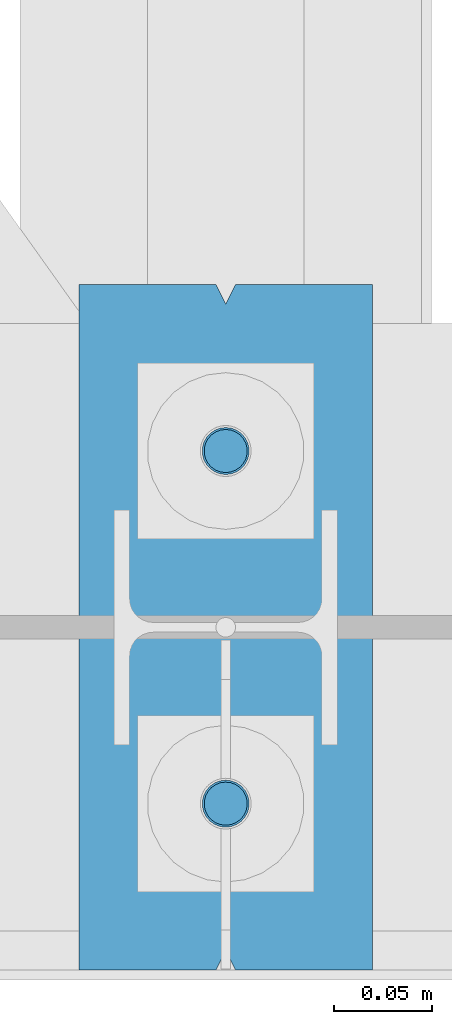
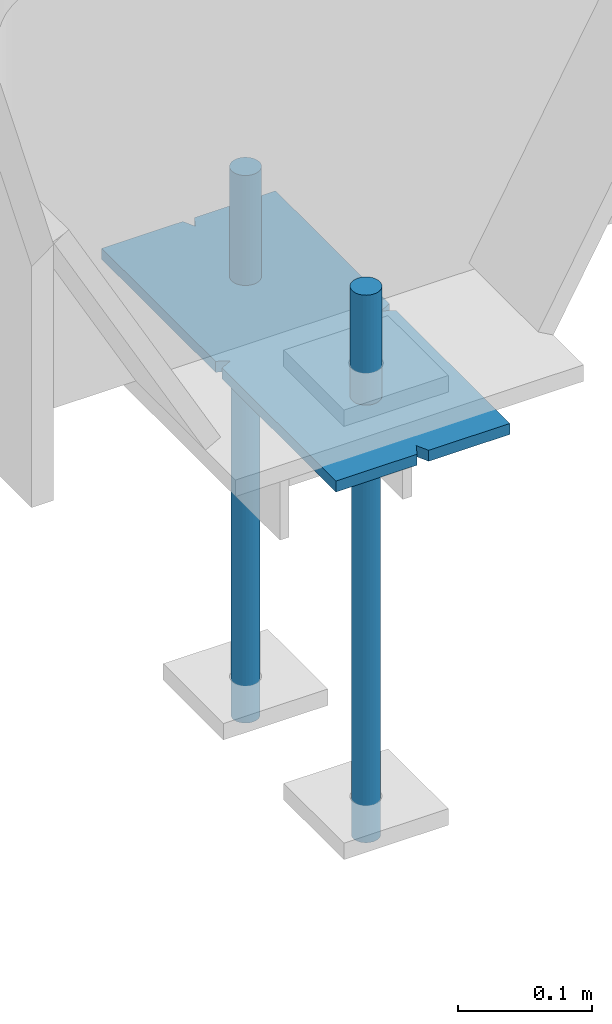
# One storey, part 81 of 123: 5 discrete accessories, 1 element without a shape of its own.
"""IFC2X3 building model written with IfcOpenShell, lengths in millimetres."""

import ifcopenshell
import ifcopenshell.guid

model = None  # the IFC model being written
_history = None  # IfcOwnerHistory: only IFC2X3 demands one
_inside = {}  # id of a spatial element -> (the spatial element, [elements in it])
_under = {}  # id of a project, library or spatial element -> (it, [spatial elements below it])
_declared = {}  # id of a project -> (the project, [libraries it declares])
_typed = {}  # id of a type object -> (the type object, [elements of that type])
_made_of = {}  # id of a material, layer set ... -> (it, [elements and type objects made of it])


def new_model(schema):
    """Start an empty IFC model of exactly this schema.

    Asked for "IFC4X3", IfcOpenShell would pick the latest addendum, in which some entities
    have other attributes; the version numbers below select the first issue.
    IFC2X3 requires an IfcOwnerHistory on every rooted entity: one is made here for all.
    """
    global model, _history
    if schema == "IFC4X3":
        model = ifcopenshell.file(schema_version=(4, 3, 0, 0))
    else:
        model = ifcopenshell.file(schema=schema)
    _inside.clear()
    _under.clear()
    _declared.clear()
    _typed.clear()
    _made_of.clear()
    _history = None
    if model.schema == "IFC2X3":
        org = make("IfcOrganization", Name="unknown")
        user = make(
            "IfcPersonAndOrganization",
            ThePerson=make("IfcPerson", FamilyName="unknown"),
            TheOrganization=org,
        )
        app = make(
            "IfcApplication",
            ApplicationDeveloper=org,
            Version="unknown",
            ApplicationFullName="unknown",
            ApplicationIdentifier="unknown",
        )
        _history = make(
            "IfcOwnerHistory",
            OwningUser=user,
            OwningApplication=app,
            ChangeAction="ADDED",
            CreationDate=0,
        )
    return model


def make(cls, **values):
    """One entity of the class cls with the attributes given. An attribute that is None is left unset."""
    return model.create_entity(
        cls, **{name: value for name, value in values.items() if value is not None}
    )


def rooted(cls, **values):
    """An entity with a GlobalId (a new one), such as an element, a storey or a relation."""
    return make(cls, GlobalId=ifcopenshell.guid.new(), OwnerHistory=_history, **values)


def si_unit(unit_type, name, prefix=None):
    """IfcSIUnit, for example si_unit("LENGTHUNIT", "METRE", prefix="MILLI")."""
    return make("IfcSIUnit", UnitType=unit_type, Prefix=prefix, Name=name)


def assignment(units):
    """IfcUnitAssignment: the units of a project."""
    return None if units is None else make("IfcUnitAssignment", Units=units)


def point(xyz):
    """IfcCartesianPoint."""
    return None if xyz is None else make("IfcCartesianPoint", Coordinates=xyz)


def direction(xyz):
    """IfcDirection."""
    return None if xyz is None else make("IfcDirection", DirectionRatios=xyz)


def frame(location, z_axis=None, x_axis=None):
    """IfcAxis2Placement3D, a coordinate frame: its origin and axes. An axis left out is left unset."""
    return make(
        "IfcAxis2Placement3D",
        Location=point(location),
        Axis=direction(z_axis),
        RefDirection=direction(x_axis),
    )


def frame_2d(location, x_axis=None):
    """IfcAxis2Placement2D, a coordinate frame in the plane: its origin and x axis."""
    return make(
        "IfcAxis2Placement2D", Location=point(location), RefDirection=direction(x_axis)
    )


def origin_with_axes():
    """The frame at (0, 0, 0) with the z axis (0, 0, 1) and the x axis (1, 0, 0) written out."""
    return frame((0.0, 0.0, 0.0), z_axis=(0.0, 0.0, 1.0), x_axis=(1.0, 0.0, 0.0))


def origin_2d_with_axis():
    """The frame at (0, 0) in the plane with the x axis (1, 0) written out."""
    return frame_2d((0.0, 0.0), x_axis=(1.0, 0.0))


def place(relative_to, where):
    """IfcLocalPlacement: puts the frame where relative to a parent placement (None: the world)."""
    return make(
        "IfcLocalPlacement", PlacementRelTo=relative_to, RelativePlacement=where
    )


def context(
    kind, dimensions, precision=None, world=None, true_north=None, identifier=None
):
    """IfcGeometricRepresentationContext, for example the 3D "Model" context."""
    return make(
        "IfcGeometricRepresentationContext",
        ContextIdentifier=identifier,
        ContextType=kind,
        CoordinateSpaceDimension=dimensions,
        Precision=precision,
        WorldCoordinateSystem=world,
        TrueNorth=true_north,
    )


def subcontext(parent, identifier, kind, view, scale=None):
    """IfcGeometricRepresentationSubContext, for example "Body" below "Model"."""
    return make(
        "IfcGeometricRepresentationSubContext",
        ContextIdentifier=identifier,
        ContextType=kind,
        ParentContext=parent,
        TargetScale=scale,
        TargetView=view,
    )


def project(units=None, contexts=None):
    """IfcProject with its units and contexts."""
    return rooted(
        "IfcProject",
        Name="project",
        RepresentationContexts=contexts,
        UnitsInContext=assignment(units),
    )


def spatial(cls, under=None, at=None, **own):
    """A site, building, storey or space (cls), placed at a placement, below another one or the project."""
    s = rooted(cls, ObjectPlacement=at, **own)
    if under is not None:
        _under.setdefault(under.id(), (under, []))[1].append(s)
    return s


def polyline(points):
    """IfcPolyline through the points."""
    return make("IfcPolyline", Points=[point(p) for p in points])


def profile(cls, at=None, kind="AREA", **sizes):
    """A parametric profile (cls). Its sizes go by their IFC names, for example OverallWidth=200.0."""
    return make(cls, ProfileType=kind, Position=at, **sizes)


def circle(**sizes):
    """IfcCircleProfileDef."""
    return profile("IfcCircleProfileDef", **sizes)


def outline(outer, holes=None, kind="AREA"):
    """IfcArbitraryClosedProfileDef: a profile drawn as a closed curve; with holes, ...WithVoids."""
    if holes is None:
        return make("IfcArbitraryClosedProfileDef", ProfileType=kind, OuterCurve=outer)
    return make(
        "IfcArbitraryProfileDefWithVoids",
        ProfileType=kind,
        OuterCurve=outer,
        InnerCurves=holes,
    )


def extrude(swept, where, along, depth):
    """IfcExtrudedAreaSolid: the profile swept, set in the frame where, extruded along a direction by depth."""
    return make(
        "IfcExtrudedAreaSolid",
        SweptArea=swept,
        Position=where,
        ExtrudedDirection=direction(along),
        Depth=depth,
    )


def boolean(op, a, b):
    """IfcBooleanResult of two solids."""
    return make("IfcBooleanResult", Operator=op, FirstOperand=a, SecondOperand=b)


def shape(context_of_items, identifier, shape_type, items):
    """IfcShapeRepresentation: the items that make up one representation, for example the "Body"."""
    return make(
        "IfcShapeRepresentation",
        ContextOfItems=context_of_items,
        RepresentationIdentifier=identifier,
        RepresentationType=shape_type,
        Items=items,
    )


def material(Name=None, Category=None):
    """IfcMaterial."""
    return make("IfcMaterial", Name=Name, Category=Category)


def made_of(thing, what):
    """Note that an element or type object is made of a material, layer set ...; save() writes the relation."""
    if what is not None:
        _made_of.setdefault(what.id(), (what, []))[1].append(thing)
    return thing


def type_object(cls, material=None, **own):
    """A type object (cls), such as IfcWallType, which elements share."""
    return made_of(rooted(cls, **own), material)


def element(
    cls,
    number,
    at=None,
    inside=None,
    cuts=None,
    type_object=None,
    material=None,
    context=None,
    identifier="Body",
    shape_type=None,
    held_by="IfcProductDefinitionShape",
    body=None,
    shapes=None,
    **own,
):
    """One element of the class cls, such as IfcWall. Its Tag is "e" and its number.

    at: its placement. inside: the storey or other place that contains it. cuts: it is an
    opening in that element (IfcRelVoidsElement). A single representation is given by context,
    identifier, shape_type and body (its items); several are given by shapes. held_by: the class
    of the entity that holds the representations. save() writes the other relations.
    """
    e = rooted(cls, Tag="e%d" % number, ObjectPlacement=at, **own)
    if body is not None:
        shapes = [shape(context, identifier, shape_type, body)]
    if shapes is not None:
        e.Representation = make(held_by, Representations=shapes)
    if inside is not None:
        _inside.setdefault(inside.id(), (inside, []))[1].append(e)
    if cuts is not None:
        rooted(
            "IfcRelVoidsElement", RelatingBuildingElement=cuts, RelatedOpeningElement=e
        )
    if type_object is not None:
        _typed.setdefault(type_object.id(), (type_object, []))[1].append(e)
    return made_of(e, material)


def aggregate(whole, parts):
    """IfcRelAggregates: a whole, such as a stair, and the parts it consists of."""
    return rooted("IfcRelAggregates", RelatingObject=whole, RelatedObjects=parts)


def save(model, path):
    """Write the relations noted so far, then the file.

    IfcRelAggregates (storeys below a building ...), IfcRelContainedInSpatialStructure (elements
    in a storey), IfcRelDefinesByType, IfcRelAssociatesMaterial and IfcRelDeclares: one each for
    every whole, place, type object, material and project.
    """
    for whole, parts in _under.values():
        aggregate(whole, parts)
    for where, things in _inside.values():
        rooted(
            "IfcRelContainedInSpatialStructure",
            RelatedElements=things,
            RelatingStructure=where,
        )
    for kind, things in _typed.values():
        rooted("IfcRelDefinesByType", RelatedObjects=things, RelatingType=kind)
    for what, things in _made_of.values():
        rooted("IfcRelAssociatesMaterial", RelatedObjects=things, RelatingMaterial=what)
    for by, libraries in _declared.values():
        rooted("IfcRelDeclares", RelatingContext=by, RelatedDefinitions=libraries)
    model.write(path)


model = new_model("IFC2X3")

# Units and contexts
model_context = context("Model", 3, precision=1e-05, world=origin_with_axes())
body_context = subcontext(model_context, "Body", "Model", "MODEL_VIEW")
ifc_project = project(units=[si_unit("LENGTHUNIT", "METRE", prefix="MILLI"), si_unit("AREAUNIT", "SQUARE_METRE"), si_unit("VOLUMEUNIT", "CUBIC_METRE"), si_unit("MASSUNIT", "GRAM", prefix="KILO"), si_unit("TIMEUNIT", "SECOND"), si_unit("PLANEANGLEUNIT", "RADIAN"), si_unit("SOLIDANGLEUNIT", "STERADIAN"), si_unit("THERMODYNAMICTEMPERATUREUNIT", "DEGREE_CELSIUS"), si_unit("LUMINOUSINTENSITYUNIT", "LUMEN")], contexts=[model_context])

# Site, building, storey
site_placement = place(None, origin_with_axes())
site = spatial("IfcSite", under=ifc_project, at=site_placement, Name="Undefined", CompositionType="ELEMENT")
building_placement = place(site_placement, origin_with_axes())
building = spatial("IfcBuilding", under=site, at=building_placement, Name="Undefined", CompositionType="ELEMENT")
storey_placement = place(building_placement, origin_with_axes())
storey = spatial("IfcBuildingStorey", under=building, at=storey_placement, Name="Undefined", CompositionType="ELEMENT", Elevation=0.0)

# Assembly, discrete accessories
assembly_placement = place(storey_placement, origin_with_axes())
assembly = element("IfcElementAssembly", 1, at=assembly_placement, inside=storey, Name="Steel Assembly", AssemblyPlace="NOTDEFINED", PredefinedType="RIGID_FRAME")
ifc_material = material(Name="STEEL/S235-E24")
discrete_accessory_type_1 = type_object("IfcDiscreteAccessoryType", Name="TIGE D'ANCRAGE")
discrete_accessory_1_placement = place(assembly_placement, frame((28880.0, -90.0028495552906, -150.0), z_axis=(-1.0, 0.0, 0.0), x_axis=(0.0, 0.0, -1.0)))
discrete_accessory_1 = element("IfcDiscreteAccessory", 2, at=discrete_accessory_1_placement, type_object=discrete_accessory_type_1, material=ifc_material, Name="TIGE D'ANCRAGE", ObjectType="D24", context=body_context, shape_type="SweptSolid", body=[
    extrude(circle(Radius=12.0, at=origin_2d_with_axis()), frame((150.0, 0.0, 0.0), z_axis=(-1.0, 0.0, 0.0), x_axis=(0.0, -1.0, 0.0)), (0.0, 0.0, 1.0), 150.0),
])
discrete_accessory_2_placement = place(assembly_placement, frame((28880.0, -90.0028495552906, -300.0), z_axis=(-1.0, 0.0, 0.0), x_axis=(0.0, 0.0, -1.0)))
discrete_accessory_2 = element("IfcDiscreteAccessory", 3, at=discrete_accessory_2_placement, type_object=discrete_accessory_type_1, material=ifc_material, Name="TIGE D'ANCRAGE", ObjectType="D22", context=body_context, shape_type="SweptSolid", body=[
    extrude(circle(Radius=11.0, at=origin_2d_with_axis()), frame((350.0, 0.0, 0.0), z_axis=(-1.0, 0.0, 0.0), x_axis=(0.0, -1.0, 0.0)), (0.0, 0.0, 1.0), 350.0),
])
discrete_accessory_3_placement = place(assembly_placement, frame((28880.0, 89.9971504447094, -150.0), z_axis=(-1.0, 0.0, 0.0), x_axis=(0.0, 0.0, -1.0)))
discrete_accessory_3 = element("IfcDiscreteAccessory", 4, at=discrete_accessory_3_placement, type_object=discrete_accessory_type_1, material=ifc_material, Name="TIGE D'ANCRAGE", ObjectType="D24", context=body_context, shape_type="SweptSolid", body=[
    extrude(circle(Radius=12.0, at=origin_2d_with_axis()), frame((150.0, 0.0, 0.0), z_axis=(-1.0, 0.0, 0.0), x_axis=(0.0, -1.0, 0.0)), (0.0, 0.0, 1.0), 150.0),
])
discrete_accessory_4_placement = place(assembly_placement, frame((28880.0, 89.9971504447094, -300.0), z_axis=(-1.0, 0.0, 0.0), x_axis=(0.0, 0.0, -1.0)))
discrete_accessory_4 = element("IfcDiscreteAccessory", 5, at=discrete_accessory_4_placement, type_object=discrete_accessory_type_1, material=ifc_material, Name="TIGE D'ANCRAGE", ObjectType="D22", context=body_context, shape_type="SweptSolid", body=[
    extrude(circle(Radius=11.0, at=origin_2d_with_axis()), frame((350.0, 0.0, 0.0), z_axis=(-1.0, 0.0, 0.0), x_axis=(0.0, -1.0, 0.0)), (0.0, 0.0, 1.0), 350.0),
])
discrete_accessory_type_2 = type_object("IfcDiscreteAccessoryType", Name="PRESCELLEMENT PS24")
discrete_accessory_5_placement = place(assembly_placement, frame((28880.0, 175.0, -255.0), z_axis=(0.0, 0.0, 1.0), x_axis=(0.0, -1.0, 0.0)))
discrete_accessory_5 = element("IfcDiscreteAccessory", 6, at=discrete_accessory_5_placement, type_object=discrete_accessory_type_2, material=ifc_material, Name="PRESCELLEMENT PS24", ObjectType="PL10*150", context=body_context, shape_type="CSG", body=[
    boolean("DIFFERENCE", boolean("DIFFERENCE", boolean("DIFFERENCE", boolean("DIFFERENCE", extrude(outline(polyline([(9.99999993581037, -3.76858224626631e-08), (0.0, 5.00000014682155), (0.0, 75.0), (170.0, 75.0), (174.999999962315, 65.0000000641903), (180.000000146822, 75.0), (350.0, 75.0), (350.0, 5.00000018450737), (340.0, 0.0), (350.0, -4.99999996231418), (350.0, -75.0), (180.0, -75.0), (175.000000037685, -65.0000000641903), (169.999999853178, -74.9999999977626), (0.0, -75.0), (0.0, -5.0), (9.99999993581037, -3.76858224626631e-08)])), frame((0.0, 0.0, -5.0), z_axis=(0.0, 0.0, 1.0), x_axis=(1.0, 0.0, 0.0)), (0.0, 0.0, 1.0), 10.0), extrude(outline(polyline([(0.0, 0.0), (11.1803398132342, 1.2732925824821e-11), (4.47213602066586, 8.94427204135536), (0.0, 0.0)])), frame((0.0, -5.0, -7.5), z_axis=(0.0, 0.0, 1.0), x_axis=(0.89442719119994, 0.44721359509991, 0.0)), (0.0, 0.0, 1.0), 15.0)), extrude(outline(polyline([(0.0, 0.0), (11.1803398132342, 1.2732925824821e-11), (4.47213602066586, 8.94427204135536), (0.0, 0.0)])), frame((180.0, -75.0, -7.5), z_axis=(0.0, 0.0, 1.0), x_axis=(-0.447213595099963, 0.894427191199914, 0.0)), (0.0, 0.0, 1.0), 15.0)), extrude(outline(polyline([(0.0, 0.0), (11.1803398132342, 1.2732925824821e-11), (6.70820379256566, 8.94427204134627), (0.0, 0.0)])), frame((340.0, 0.0, -7.5), z_axis=(0.0, 0.0, 1.0), x_axis=(0.89442719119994, -0.44721359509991, 0.0)), (0.0, 0.0, 1.0), 15.0)), extrude(outline(polyline([(0.0, 0.0), (11.1803398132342, 1.2732925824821e-11), (4.47213602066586, 8.94427204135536), (0.0, 0.0)])), frame((170.0, 75.0, -7.5), z_axis=(0.0, 0.0, 1.0), x_axis=(0.447213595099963, -0.894427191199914, 0.0)), (0.0, 0.0, 1.0), 15.0)),
])
aggregate(assembly, [discrete_accessory_1, discrete_accessory_2, discrete_accessory_3, discrete_accessory_4, discrete_accessory_5])

save(model, "model.ifc")
